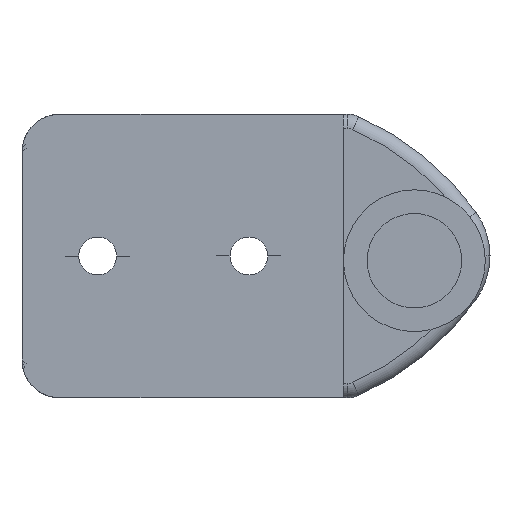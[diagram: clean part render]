
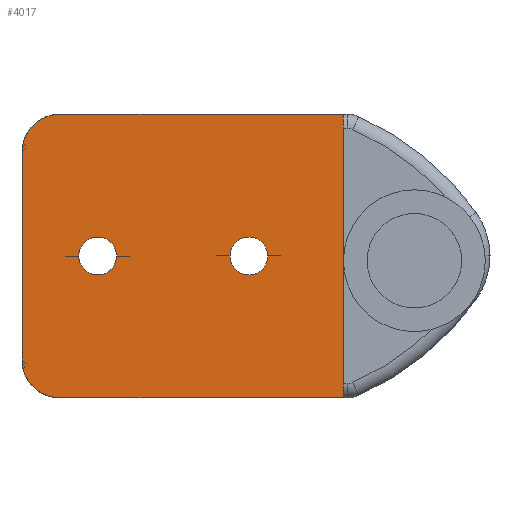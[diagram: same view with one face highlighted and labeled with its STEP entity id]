
A CAD part, front view. The second image highlights one B-rep face of the part: STEP entity #4017.
In plain terms, the highlighted planar face has unit normal (0, -1, 0).
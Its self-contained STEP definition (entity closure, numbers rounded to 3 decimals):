
#24 = AXIS2_PLACEMENT_3D ( 'NONE', #4508, #4507, #4506 ) ;
#78 = EDGE_LOOP ( 'NONE', ( #338, #339 ) ) ;
#81 = ORIENTED_EDGE ( 'NONE', *, *, #1349, .T. ) ;
#104 = CIRCLE ( 'NONE', #1033, 4. ) ;
#127 = FACE_OUTER_BOUND ( 'NONE', #722, .T. ) ;
#129 = FACE_BOUND ( 'NONE', #78, .T. ) ;
#130 = FACE_BOUND ( 'NONE', #669, .T. ) ;
#169 = VECTOR ( 'NONE', #3106, 1000. ) ;
#201 = VECTOR ( 'NONE', #2068, 1000. ) ;
#202 = LINE ( 'NONE', #2069, #201 ) ;
#252 = LINE ( 'NONE', #3049, #296 ) ;
#266 = CIRCLE ( 'NONE', #1081, 2. ) ;
#296 = VECTOR ( 'NONE', #3048, 1000. ) ;
#303 = ORIENTED_EDGE ( 'NONE', *, *, #1107, .T. ) ;
#307 = LINE ( 'NONE', #3107, #169 ) ;
#333 = ORIENTED_EDGE ( 'NONE', *, *, #1121, .T. ) ;
#335 = ORIENTED_EDGE ( 'NONE', *, *, #1259, .F. ) ;
#338 = ORIENTED_EDGE ( 'NONE', *, *, #1050, .F. ) ;
#339 = ORIENTED_EDGE ( 'NONE', *, *, #1325, .F. ) ;
#355 = ORIENTED_EDGE ( 'NONE', *, *, #1131, .T. ) ;
#370 = ORIENTED_EDGE ( 'NONE', *, *, #1125, .T. ) ;
#372 = ORIENTED_EDGE ( 'NONE', *, *, #1040, .F. ) ;
#450 = ORIENTED_EDGE ( 'NONE', *, *, #1114, .T. ) ;
#456 = CIRCLE ( 'NONE', #965, 2. ) ;
#669 = EDGE_LOOP ( 'NONE', ( #372, #335 ) ) ;
#722 = EDGE_LOOP ( 'NONE', ( #355, #303, #450, #333, #370, #81 ) ) ;
#754 = CIRCLE ( 'NONE', #1014, 2. ) ;
#816 = CIRCLE ( 'NONE', #1032, 4. ) ;
#871 = CIRCLE ( 'NONE', #1027, 2. ) ;
#955 = LINE ( 'NONE', #3013, #956 ) ;
#956 = VECTOR ( 'NONE', #3012, 1000. ) ;
#965 = AXIS2_PLACEMENT_3D ( 'NONE', #2416, #2414, #2413 ) ;
#1014 = AXIS2_PLACEMENT_3D ( 'NONE', #3240, #3239, #3238 ) ;
#1027 = AXIS2_PLACEMENT_3D ( 'NONE', #3260, #3259, #3258 ) ;
#1032 = AXIS2_PLACEMENT_3D ( 'NONE', #3124, #3123, #3122 ) ;
#1033 = AXIS2_PLACEMENT_3D ( 'NONE', #3062, #3061, #3060 ) ;
#1040 = EDGE_CURVE ( 'NONE', #3305, #3417, #871, .T. ) ;
#1050 = EDGE_CURVE ( 'NONE', #3385, #3355, #754, .T. ) ;
#1081 = AXIS2_PLACEMENT_3D ( 'NONE', #2156, #2155, #2154 ) ;
#1107 = EDGE_CURVE ( 'NONE', #3383, #3347, #816, .T. ) ;
#1114 = EDGE_CURVE ( 'NONE', #3347, #3413, #307, .T. ) ;
#1121 = EDGE_CURVE ( 'NONE', #3413, #3397, #104, .T. ) ;
#1125 = EDGE_CURVE ( 'NONE', #3397, #3410, #252, .T. ) ;
#1131 = EDGE_CURVE ( 'NONE', #3376, #3383, #955, .T. ) ;
#1259 = EDGE_CURVE ( 'NONE', #3417, #3305, #456, .T. ) ;
#1325 = EDGE_CURVE ( 'NONE', #3355, #3385, #266, .T. ) ;
#1349 = EDGE_CURVE ( 'NONE', #3410, #3376, #202, .T. ) ;
#1954 = CARTESIAN_POINT ( 'NONE',  ( -15.5, 447., 0.5 ) ) ;
#1956 = CARTESIAN_POINT ( 'NONE',  ( -41.5, 447., -10.5 ) ) ;
#1958 = CARTESIAN_POINT ( 'NONE',  ( -7.5, 447., -14.5 ) ) ;
#1968 = CARTESIAN_POINT ( 'NONE',  ( -37.5, 447., -14.5 ) ) ;
#1977 = CARTESIAN_POINT ( 'NONE',  ( -35.5, 447., 0.5 ) ) ;
#1979 = CARTESIAN_POINT ( 'NONE',  ( -37.5, 447., 15.5 ) ) ;
#1982 = CARTESIAN_POINT ( 'NONE',  ( -7.5, 447., 15.5 ) ) ;
#1997 = CARTESIAN_POINT ( 'NONE',  ( -31.5, 447., 0.5 ) ) ;
#2002 = CARTESIAN_POINT ( 'NONE',  ( -41.5, 447., 11.5 ) ) ;
#2037 = CARTESIAN_POINT ( 'NONE',  ( -19.5, 447., 0.5 ) ) ;
#2068 = DIRECTION ( 'NONE',  ( 0., 0., 1. ) ) ;
#2069 = CARTESIAN_POINT ( 'NONE',  ( -7.5, 447., 15.5 ) ) ;
#2154 = DIRECTION ( 'NONE',  ( 1., 0., 0. ) ) ;
#2155 = DIRECTION ( 'NONE',  ( 0., -1., 0. ) ) ;
#2156 = CARTESIAN_POINT ( 'NONE',  ( -33.5, 447., 0.5 ) ) ;
#2413 = DIRECTION ( 'NONE',  ( 1., 0., 0. ) ) ;
#2414 = DIRECTION ( 'NONE',  ( 0., -1., 0. ) ) ;
#2416 = CARTESIAN_POINT ( 'NONE',  ( -17.5, 447., 0.5 ) ) ;
#3012 = DIRECTION ( 'NONE',  ( -1., 0., 0. ) ) ;
#3013 = CARTESIAN_POINT ( 'NONE',  ( -37.5, 447., 15.5 ) ) ;
#3048 = DIRECTION ( 'NONE',  ( 1., 0., 0. ) ) ;
#3049 = CARTESIAN_POINT ( 'NONE',  ( -7.5, 447., -14.5 ) ) ;
#3060 = DIRECTION ( 'NONE',  ( 1., 0., 0. ) ) ;
#3061 = DIRECTION ( 'NONE',  ( 0., -1., 0. ) ) ;
#3062 = CARTESIAN_POINT ( 'NONE',  ( -37.5, 447., -10.5 ) ) ;
#3106 = DIRECTION ( 'NONE',  ( 0., 0., -1. ) ) ;
#3107 = CARTESIAN_POINT ( 'NONE',  ( -41.5, 447., -10.5 ) ) ;
#3122 = DIRECTION ( 'NONE',  ( 1., 0., 0. ) ) ;
#3123 = DIRECTION ( 'NONE',  ( 0., -1., 0. ) ) ;
#3124 = CARTESIAN_POINT ( 'NONE',  ( -37.5, 447., 11.5 ) ) ;
#3238 = DIRECTION ( 'NONE',  ( 1., 0., 0. ) ) ;
#3239 = DIRECTION ( 'NONE',  ( 0., -1., 0. ) ) ;
#3240 = CARTESIAN_POINT ( 'NONE',  ( -33.5, 447., 0.5 ) ) ;
#3258 = DIRECTION ( 'NONE',  ( 1., 0., 0. ) ) ;
#3259 = DIRECTION ( 'NONE',  ( 0., -1., 0. ) ) ;
#3260 = CARTESIAN_POINT ( 'NONE',  ( -17.5, 447., 0.5 ) ) ;
#3305 = VERTEX_POINT ( 'NONE', #2037 ) ;
#3347 = VERTEX_POINT ( 'NONE', #2002 ) ;
#3355 = VERTEX_POINT ( 'NONE', #1997 ) ;
#3376 = VERTEX_POINT ( 'NONE', #1982 ) ;
#3383 = VERTEX_POINT ( 'NONE', #1979 ) ;
#3385 = VERTEX_POINT ( 'NONE', #1977 ) ;
#3397 = VERTEX_POINT ( 'NONE', #1968 ) ;
#3410 = VERTEX_POINT ( 'NONE', #1958 ) ;
#3413 = VERTEX_POINT ( 'NONE', #1956 ) ;
#3417 = VERTEX_POINT ( 'NONE', #1954 ) ;
#4017 = ADVANCED_FACE ( 'NONE', ( #130, #129, #127 ), #4510, .T. ) ;
#4506 = DIRECTION ( 'NONE',  ( 1., 0., 0. ) ) ;
#4507 = DIRECTION ( 'NONE',  ( 0., -1., 0. ) ) ;
#4508 = CARTESIAN_POINT ( 'NONE',  ( -37.5, 447., -10.5 ) ) ;
#4510 = PLANE ( 'NONE',  #24 ) ;
